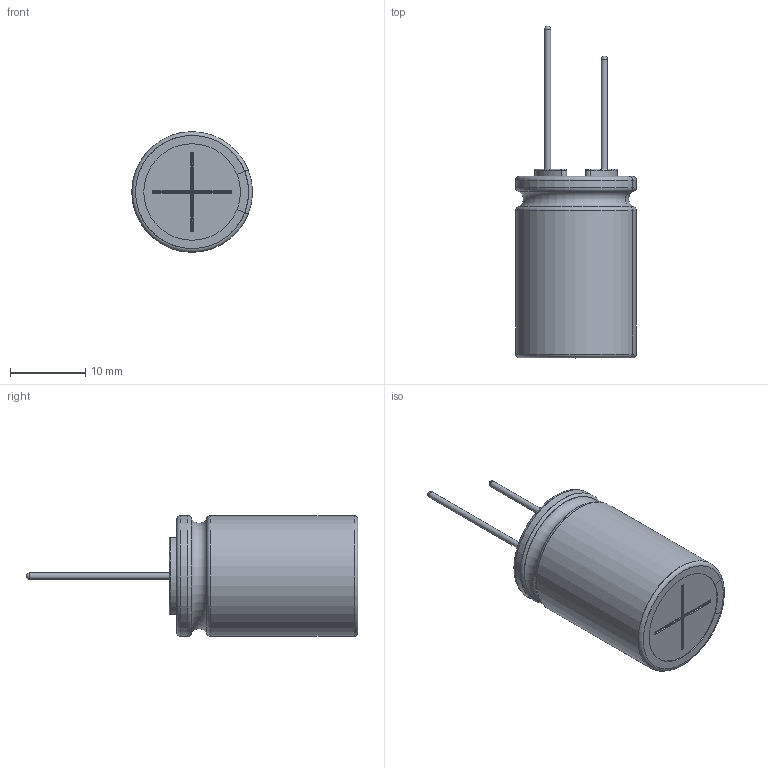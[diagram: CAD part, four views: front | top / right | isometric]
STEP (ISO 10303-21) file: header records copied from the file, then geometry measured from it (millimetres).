
FILE_DESCRIPTION(/* description */ (''),/* implementation_level */ '2;1');
FILE_NAME(/* name */ '16x25_Lead.stp',/* time_stamp */ '2017-09-05T14:43:14+09:00',/* author */ (''),/* organization */ (''),/* preprocessor_version */ 'ST-DEVELOPER v16',/* originating_system */ 'SIEMENS PLM Software NX 11.0',/* authorisation */ '');
FILE_SCHEMA (('AUTOMOTIVE_DESIGN { 1 0 10303 214 3 1 1 1 }'));
Length unit declared in the file: millimetre
Products named in the file (1): 16x25_Lead_0
Bounding box: 15.98 x 44 x 16 mm (x, y, z)
Volume: 4788.8 mm3; surface area: 4444.5 mm2
Topology: 3 solids, 3 shells, 132 faces, 328 edges, 205 vertices
Faces by surface type: cylinder 50, torus 35, plane 33, sphere 6, bspline 6, extrusion 2
Full cylindrical faces by diameter (mm): 0.8 x2, 15.8 x2
Entity records: 5217 total; most frequent: CARTESIAN_POINT 1367, DIRECTION 748, ORIENTED_EDGE 624, EDGE_CURVE 312, AXIS2_PLACEMENT_3D 311, VERTEX_POINT 200, CIRCLE 174, EDGE_LOOP 146
